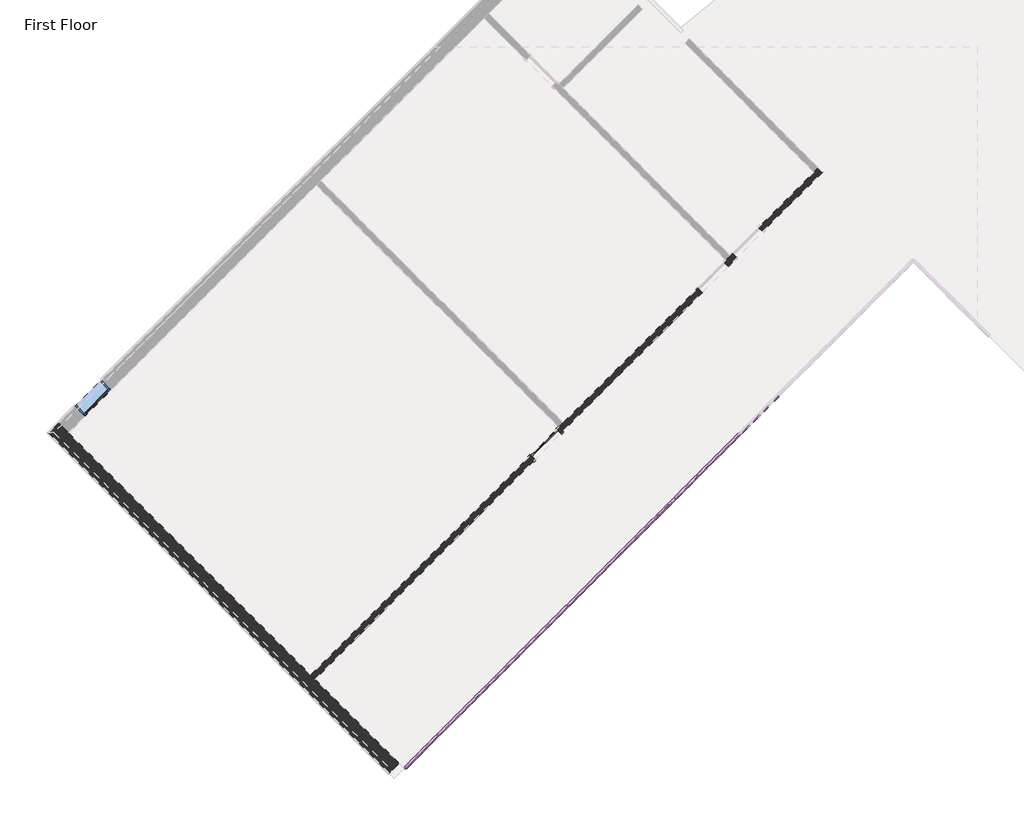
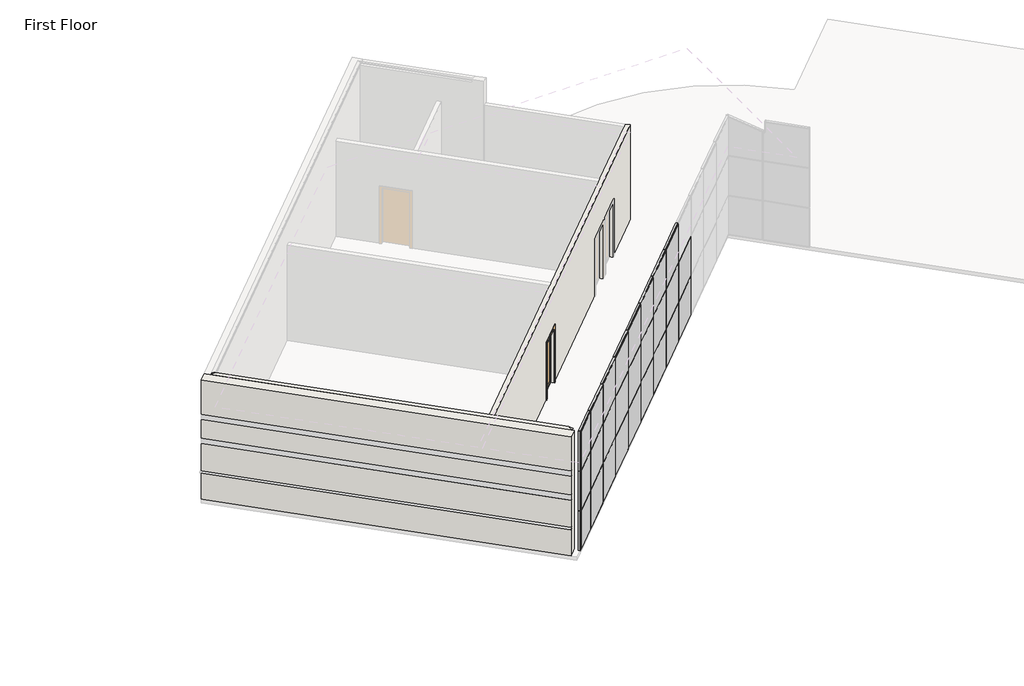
# One storey, part 1 of 5: 56 members, 26 plates, 2 walls, 1 door, 1 window.
"""IFC4 building model written with IfcOpenShell, lengths in millimetres."""

from ifc_helpers import new_model, si_unit, origin, place, context, project, spatial, faceted_brep, transform, mapped, element, save
from components import door_b81abb0e, member_bd80eb51, member_155beb68, member_42be4715, member_a3731390, member_6121af53, member_b87a50da, system_panel_glazed_da345f4e, system_panel_glazed_f1e4c5b0, system_panel_glazed_b4114ee2, system_panel_glazed_dc791129, system_panel_solid_2f1037e2, system_panel_solid_6e0f4c8d, window_15c49d37

model = new_model("IFC4")

# Units and contexts
model_context = context("Model", 3, world=origin())
ifc_project = project(units=[si_unit("LENGTHUNIT", "METRE", prefix="MILLI")], contexts=[model_context])

# Site, building, storey
site = spatial("IfcSite", under=ifc_project)
building = spatial("IfcBuilding", under=site)
storey = spatial("IfcBuildingStorey", under=building, Name="First Floor", Elevation=0.0)

# Door
placement = place(None, origin())
door_shape = door_b81abb0e(model_context)
element("IfcDoor", 1, ObjectType="Single-Glass 1 : 36\" x 84\"", at=placement, inside=storey, context=model_context, shape_type="MappedRepresentation", body=[
    mapped(door_shape, transform((-12602.8718391, -2278.0890678, 0.0), x_axis=(0.707106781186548, 0.707106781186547, 0.0), y_axis=(-0.707106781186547, 0.707106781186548, 0.0), z_axis=(0.0, 0.0, 1.0))),
])

# Members
member_shape = member_bd80eb51(model_context)
element("IfcMember", 2, ObjectType="Rectangular Mullion : 1.5\" x 2.5\" Rectangular", at=placement, inside=storey, context=model_context, shape_type="MappedRepresentation", body=[
    mapped(member_shape, transform((-16098.4365342, -10333.3788084, 4572.0), x_axis=(0.0, 0.0, 1.0), y_axis=(-0.7071067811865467, 0.7071067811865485, 0.0), z_axis=(-0.7071067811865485, -0.7071067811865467, 0.0))),
])
member_2_shape = member_155beb68(model_context)
element("IfcMember", 3, ObjectType="Rectangular Mullion : 1.5\" x 2.5\" Rectangular", at=placement, inside=storey, context=model_context, shape_type="MappedRepresentation", body=[
    mapped(member_2_shape, transform((-8831.1642682, -3066.1065424, 0.0), x_axis=(-0.7071067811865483, -0.7071067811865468, 0.0), y_axis=(-0.7071067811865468, 0.7071067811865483, 0.0), z_axis=(0.0, 0.0, -1.0))),
])
element("IfcMember", 4, ObjectType="Rectangular Mullion : 1.5\" x 2.5\" Rectangular", at=placement, inside=storey, context=model_context, shape_type="MappedRepresentation", body=[
    mapped(member_2_shape, transform((-9908.7950028, -4143.7372769, 0.0), x_axis=(-0.7071067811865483, -0.7071067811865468, 0.0), y_axis=(-0.7071067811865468, 0.7071067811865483, 0.0), z_axis=(0.0, 0.0, -1.0))),
])
element("IfcMember", 5, ObjectType="Rectangular Mullion : 1.5\" x 2.5\" Rectangular", at=placement, inside=storey, context=model_context, shape_type="MappedRepresentation", body=[
    mapped(member_2_shape, transform((-10986.4257373, -5221.3680114, 0.0), x_axis=(-0.7071067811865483, -0.7071067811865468, 0.0), y_axis=(-0.7071067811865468, 0.7071067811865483, 0.0), z_axis=(0.0, 0.0, -1.0))),
])
element("IfcMember", 6, ObjectType="Rectangular Mullion : 1.5\" x 2.5\" Rectangular", at=placement, inside=storey, context=model_context, shape_type="MappedRepresentation", body=[
    mapped(member_2_shape, transform((-12064.0564718, -6298.998746, 0.0), x_axis=(-0.7071067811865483, -0.7071067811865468, 0.0), y_axis=(-0.7071067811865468, 0.7071067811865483, 0.0), z_axis=(0.0, 0.0, -1.0))),
])
element("IfcMember", 7, ObjectType="Rectangular Mullion : 1.5\" x 2.5\" Rectangular", at=placement, inside=storey, context=model_context, shape_type="MappedRepresentation", body=[
    mapped(member_2_shape, transform((-13141.6872064, -7376.6294805, 0.0), x_axis=(-0.7071067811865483, -0.7071067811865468, 0.0), y_axis=(-0.7071067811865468, 0.7071067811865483, 0.0), z_axis=(0.0, 0.0, -1.0))),
])
element("IfcMember", 8, ObjectType="Rectangular Mullion : 1.5\" x 2.5\" Rectangular", at=placement, inside=storey, context=model_context, shape_type="MappedRepresentation", body=[
    mapped(member_2_shape, transform((-14219.3179409, -8454.260215, 0.0), x_axis=(-0.7071067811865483, -0.7071067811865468, 0.0), y_axis=(-0.7071067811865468, 0.7071067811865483, 0.0), z_axis=(0.0, 0.0, -1.0))),
])
element("IfcMember", 9, ObjectType="Rectangular Mullion : 1.5\" x 2.5\" Rectangular", at=placement, inside=storey, context=model_context, shape_type="MappedRepresentation", body=[
    mapped(member_2_shape, transform((-15296.9486754, -9531.8909496, 0.0), x_axis=(-0.7071067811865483, -0.7071067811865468, 0.0), y_axis=(-0.7071067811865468, 0.7071067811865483, 0.0), z_axis=(0.0, 0.0, -1.0))),
])
member_3_shape = member_42be4715(model_context)
element("IfcMember", 10, ObjectType="Rectangular Mullion : 1.5\" x 2.5\" Rectangular", at=placement, inside=storey, context=model_context, shape_type="MappedRepresentation", body=[
    mapped(member_3_shape, transform((-8817.6938841, -3052.6361582, 1524.0), x_axis=(0.0, 0.0, 1.0), y_axis=(-0.7071067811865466, 0.7071067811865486, 0.0), z_axis=(-0.7071067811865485, -0.7071067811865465, 0.0))),
])
element("IfcMember", 11, ObjectType="Rectangular Mullion : 1.5\" x 2.5\" Rectangular", at=placement, inside=storey, context=model_context, shape_type="MappedRepresentation", body=[
    mapped(member_3_shape, transform((-9895.3246186, -4130.2668927, 1524.0), x_axis=(0.0, 0.0, 1.0), y_axis=(-0.7071067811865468, 0.7071067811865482, 0.0), z_axis=(-0.7071067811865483, -0.7071067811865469, 0.0))),
])
element("IfcMember", 12, ObjectType="Rectangular Mullion : 1.5\" x 2.5\" Rectangular", at=placement, inside=storey, context=model_context, shape_type="MappedRepresentation", body=[
    mapped(member_3_shape, transform((-10972.9553531, -5207.8976273, 1524.0), x_axis=(0.0, 0.0, 1.0), y_axis=(-0.7071067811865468, 0.7071067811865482, 0.0), z_axis=(-0.7071067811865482, -0.7071067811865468, 0.0))),
])
element("IfcMember", 13, ObjectType="Rectangular Mullion : 1.5\" x 2.5\" Rectangular", at=placement, inside=storey, context=model_context, shape_type="MappedRepresentation", body=[
    mapped(member_3_shape, transform((-12050.5860877, -6285.5283618, 1524.0), x_axis=(0.0, 0.0, 1.0), y_axis=(-0.7071067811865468, 0.7071067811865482, 0.0), z_axis=(-0.7071067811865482, -0.7071067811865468, 0.0))),
])
element("IfcMember", 14, ObjectType="Rectangular Mullion : 1.5\" x 2.5\" Rectangular", at=placement, inside=storey, context=model_context, shape_type="MappedRepresentation", body=[
    mapped(member_3_shape, transform((-13128.2168222, -7363.1590963, 1524.0), x_axis=(0.0, 0.0, 1.0), y_axis=(-0.7071067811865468, 0.7071067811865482, 0.0), z_axis=(-0.7071067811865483, -0.7071067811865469, 0.0))),
])
element("IfcMember", 15, ObjectType="Rectangular Mullion : 1.5\" x 2.5\" Rectangular", at=placement, inside=storey, context=model_context, shape_type="MappedRepresentation", body=[
    mapped(member_3_shape, transform((-14205.8475567, -8440.7898309, 1524.0), x_axis=(0.0, 0.0, 1.0), y_axis=(-0.7071067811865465, 0.7071067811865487, 0.0), z_axis=(-0.7071067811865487, -0.7071067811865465, 0.0))),
])
element("IfcMember", 16, ObjectType="Rectangular Mullion : 1.5\" x 2.5\" Rectangular", at=placement, inside=storey, context=model_context, shape_type="MappedRepresentation", body=[
    mapped(member_3_shape, transform((-15283.4782912, -9518.4205654, 1524.0), x_axis=(0.0, 0.0, 1.0), y_axis=(-0.7071067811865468, 0.7071067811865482, 0.0), z_axis=(-0.7071067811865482, -0.7071067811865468, 0.0))),
])
element("IfcMember", 17, ObjectType="Rectangular Mullion : 1.5\" x 2.5\" Rectangular", at=placement, inside=storey, context=model_context, shape_type="MappedRepresentation", body=[
    mapped(member_3_shape, transform((-8817.6938841, -3052.6361582, 3048.0), x_axis=(0.0, 0.0, 1.0), y_axis=(-0.7071067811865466, 0.7071067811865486, 0.0), z_axis=(-0.7071067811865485, -0.7071067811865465, 0.0))),
])
element("IfcMember", 18, ObjectType="Rectangular Mullion : 1.5\" x 2.5\" Rectangular", at=placement, inside=storey, context=model_context, shape_type="MappedRepresentation", body=[
    mapped(member_3_shape, transform((-9895.3246186, -4130.2668927, 3048.0), x_axis=(0.0, 0.0, 1.0), y_axis=(-0.7071067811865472, 0.7071067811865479, 0.0), z_axis=(-0.7071067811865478, -0.7071067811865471, 0.0))),
])
element("IfcMember", 19, ObjectType="Rectangular Mullion : 1.5\" x 2.5\" Rectangular", at=placement, inside=storey, context=model_context, shape_type="MappedRepresentation", body=[
    mapped(member_3_shape, transform((-10972.9553531, -5207.8976273, 3048.0), x_axis=(0.0, 0.0, 1.0), y_axis=(-0.7071067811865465, 0.7071067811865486, 0.0), z_axis=(-0.7071067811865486, -0.7071067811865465, 0.0))),
])
element("IfcMember", 20, ObjectType="Rectangular Mullion : 1.5\" x 2.5\" Rectangular", at=placement, inside=storey, context=model_context, shape_type="MappedRepresentation", body=[
    mapped(member_3_shape, transform((-12050.5860877, -6285.5283618, 3048.0), x_axis=(0.0, 0.0, 1.0), y_axis=(-0.7071067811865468, 0.7071067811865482, 0.0), z_axis=(-0.7071067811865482, -0.7071067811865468, 0.0))),
])
element("IfcMember", 21, ObjectType="Rectangular Mullion : 1.5\" x 2.5\" Rectangular", at=placement, inside=storey, context=model_context, shape_type="MappedRepresentation", body=[
    mapped(member_3_shape, transform((-13128.2168222, -7363.1590963, 3048.0), x_axis=(0.0, 0.0, 1.0), y_axis=(-0.7071067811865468, 0.7071067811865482, 0.0), z_axis=(-0.7071067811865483, -0.7071067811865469, 0.0))),
])
element("IfcMember", 22, ObjectType="Rectangular Mullion : 1.5\" x 2.5\" Rectangular", at=placement, inside=storey, context=model_context, shape_type="MappedRepresentation", body=[
    mapped(member_3_shape, transform((-14205.8475567, -8440.7898309, 3048.0), x_axis=(0.0, 0.0, 1.0), y_axis=(-0.7071067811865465, 0.7071067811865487, 0.0), z_axis=(-0.7071067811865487, -0.7071067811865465, 0.0))),
])
element("IfcMember", 23, ObjectType="Rectangular Mullion : 1.5\" x 2.5\" Rectangular", at=placement, inside=storey, context=model_context, shape_type="MappedRepresentation", body=[
    mapped(member_3_shape, transform((-15283.4782912, -9518.4205654, 3048.0), x_axis=(0.0, 0.0, 1.0), y_axis=(-0.7071067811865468, 0.7071067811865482, 0.0), z_axis=(-0.7071067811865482, -0.7071067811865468, 0.0))),
])
member_4_shape = member_a3731390(model_context)
element("IfcMember", 24, ObjectType="Rectangular Mullion : 1.5\" x 2.5\" Rectangular", at=placement, inside=storey, context=model_context, shape_type="MappedRepresentation", body=[
    mapped(member_4_shape, transform((-16098.4365342, -10333.3788084, 1524.0), x_axis=(0.0, 0.0, 1.0), y_axis=(-0.7071067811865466, 0.7071067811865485, 0.0), z_axis=(-0.7071067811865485, -0.7071067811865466, 0.0))),
])
element("IfcMember", 25, ObjectType="Rectangular Mullion : 1.5\" x 2.5\" Rectangular", at=placement, inside=storey, context=model_context, shape_type="MappedRepresentation", body=[
    mapped(member_4_shape, transform((-16098.4365342, -10333.3788084, 3048.0), x_axis=(0.0, 0.0, 1.0), y_axis=(-0.7071067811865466, 0.7071067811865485, 0.0), z_axis=(-0.7071067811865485, -0.7071067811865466, 0.0))),
])
member_5_shape = member_6121af53(model_context)
element("IfcMember", 26, ObjectType="Rectangular Mullion : 1.5\" x 2.5\" Rectangular", at=placement, inside=storey, context=model_context, shape_type="MappedRepresentation", body=[
    mapped(member_5_shape, transform((-7767.0039179, -2001.946192, 0.0), x_axis=(0.0, 0.0, -1.0), y_axis=(-0.7071067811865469, 0.7071067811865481, 0.0), z_axis=(0.7071067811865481, 0.7071067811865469, 0.0))),
])
element("IfcMember", 27, ObjectType="Rectangular Mullion : 1.5\" x 2.5\" Rectangular", at=placement, inside=storey, context=model_context, shape_type="MappedRepresentation", body=[
    mapped(member_5_shape, transform((-8844.6346524, -3079.5769266, 0.0), x_axis=(0.0, 0.0, -1.0), y_axis=(-0.7071067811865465, 0.7071067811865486, 0.0), z_axis=(0.7071067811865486, 0.7071067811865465, 0.0))),
])
element("IfcMember", 28, ObjectType="Rectangular Mullion : 1.5\" x 2.5\" Rectangular", at=placement, inside=storey, context=model_context, shape_type="MappedRepresentation", body=[
    mapped(member_5_shape, transform((-9922.265387, -4157.2076611, 0.0), x_axis=(0.0, 0.0, -1.0), y_axis=(-0.7071067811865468, 0.7071067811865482, 0.0), z_axis=(0.7071067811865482, 0.7071067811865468, 0.0))),
])
element("IfcMember", 29, ObjectType="Rectangular Mullion : 1.5\" x 2.5\" Rectangular", at=placement, inside=storey, context=model_context, shape_type="MappedRepresentation", body=[
    mapped(member_5_shape, transform((-10999.8961215, -5234.8383956, 0.0), x_axis=(0.0, 0.0, -1.0), y_axis=(-0.7071067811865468, 0.7071067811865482, 0.0), z_axis=(0.7071067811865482, 0.7071067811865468, 0.0))),
])
element("IfcMember", 30, ObjectType="Rectangular Mullion : 1.5\" x 2.5\" Rectangular", at=placement, inside=storey, context=model_context, shape_type="MappedRepresentation", body=[
    mapped(member_5_shape, transform((-12077.526856, -6312.4691302, 0.0), x_axis=(0.0, 0.0, -1.0), y_axis=(-0.7071067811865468, 0.7071067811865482, 0.0), z_axis=(0.7071067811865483, 0.7071067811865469, 0.0))),
])
element("IfcMember", 31, ObjectType="Rectangular Mullion : 1.5\" x 2.5\" Rectangular", at=placement, inside=storey, context=model_context, shape_type="MappedRepresentation", body=[
    mapped(member_5_shape, transform((-13155.1575905, -7390.0998647, 0.0), x_axis=(0.0, 0.0, -1.0), y_axis=(-0.7071067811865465, 0.7071067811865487, 0.0), z_axis=(0.7071067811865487, 0.7071067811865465, 0.0))),
])
element("IfcMember", 32, ObjectType="Rectangular Mullion : 1.5\" x 2.5\" Rectangular", at=placement, inside=storey, context=model_context, shape_type="MappedRepresentation", body=[
    mapped(member_5_shape, transform((-14232.7883251, -8467.7305992, 0.0), x_axis=(0.0, 0.0, -1.0), y_axis=(-0.7071067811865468, 0.7071067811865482, 0.0), z_axis=(0.7071067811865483, 0.7071067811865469, 0.0))),
])
element("IfcMember", 33, ObjectType="Rectangular Mullion : 1.5\" x 2.5\" Rectangular", at=placement, inside=storey, context=model_context, shape_type="MappedRepresentation", body=[
    mapped(member_shape, transform((-15310.4190596, -9545.3613337, 0.0), x_axis=(0.0, 0.0, -1.0), y_axis=(-0.7071067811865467, 0.7071067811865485, 0.0), z_axis=(0.7071067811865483, 0.7071067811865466, 0.0))),
])
element("IfcMember", 34, ObjectType="Rectangular Mullion : 1.5\" x 2.5\" Rectangular", at=placement, inside=storey, context=model_context, shape_type="MappedRepresentation", body=[
    mapped(member_5_shape, transform((-8817.6938841, -3052.6361582, 4572.0), x_axis=(0.0, 0.0, 1.0), y_axis=(-0.7071067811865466, 0.7071067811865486, 0.0), z_axis=(-0.7071067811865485, -0.7071067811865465, 0.0))),
])
element("IfcMember", 35, ObjectType="Rectangular Mullion : 1.5\" x 2.5\" Rectangular", at=placement, inside=storey, context=model_context, shape_type="MappedRepresentation", body=[
    mapped(member_5_shape, transform((-9895.3246186, -4130.2668927, 4572.0), x_axis=(0.0, 0.0, 1.0), y_axis=(-0.7071067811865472, 0.7071067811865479, 0.0), z_axis=(-0.7071067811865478, -0.7071067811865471, 0.0))),
])
element("IfcMember", 36, ObjectType="Rectangular Mullion : 1.5\" x 2.5\" Rectangular", at=placement, inside=storey, context=model_context, shape_type="MappedRepresentation", body=[
    mapped(member_5_shape, transform((-10972.9553531, -5207.8976273, 4572.0), x_axis=(0.0, 0.0, 1.0), y_axis=(-0.7071067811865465, 0.7071067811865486, 0.0), z_axis=(-0.7071067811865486, -0.7071067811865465, 0.0))),
])
element("IfcMember", 37, ObjectType="Rectangular Mullion : 1.5\" x 2.5\" Rectangular", at=placement, inside=storey, context=model_context, shape_type="MappedRepresentation", body=[
    mapped(member_5_shape, transform((-12050.5860877, -6285.5283618, 4572.0), x_axis=(0.0, 0.0, 1.0), y_axis=(-0.7071067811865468, 0.7071067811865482, 0.0), z_axis=(-0.7071067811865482, -0.7071067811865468, 0.0))),
])
element("IfcMember", 38, ObjectType="Rectangular Mullion : 1.5\" x 2.5\" Rectangular", at=placement, inside=storey, context=model_context, shape_type="MappedRepresentation", body=[
    mapped(member_5_shape, transform((-13128.2168222, -7363.1590963, 4572.0), x_axis=(0.0, 0.0, 1.0), y_axis=(-0.7071067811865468, 0.7071067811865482, 0.0), z_axis=(-0.7071067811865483, -0.7071067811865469, 0.0))),
])
element("IfcMember", 39, ObjectType="Rectangular Mullion : 1.5\" x 2.5\" Rectangular", at=placement, inside=storey, context=model_context, shape_type="MappedRepresentation", body=[
    mapped(member_5_shape, transform((-14205.8475567, -8440.7898309, 4572.0), x_axis=(0.0, 0.0, 1.0), y_axis=(-0.7071067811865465, 0.7071067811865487, 0.0), z_axis=(-0.7071067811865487, -0.7071067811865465, 0.0))),
])
element("IfcMember", 40, ObjectType="Rectangular Mullion : 1.5\" x 2.5\" Rectangular", at=placement, inside=storey, context=model_context, shape_type="MappedRepresentation", body=[
    mapped(member_5_shape, transform((-15283.4782912, -9518.4205654, 4572.0), x_axis=(0.0, 0.0, 1.0), y_axis=(-0.7071067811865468, 0.7071067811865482, 0.0), z_axis=(-0.7071067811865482, -0.7071067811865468, 0.0))),
])
element("IfcMember", 41, ObjectType="Rectangular Mullion : 1.5\" x 2.5\" Rectangular", at=placement, inside=storey, context=model_context, shape_type="MappedRepresentation", body=[
    mapped(member_2_shape, transform((-8831.1642682, -3066.1065424, 1524.0), x_axis=(-0.7071067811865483, -0.7071067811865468, 0.0), y_axis=(-0.7071067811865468, 0.7071067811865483, 0.0), z_axis=(0.0, 0.0, -1.0))),
])
element("IfcMember", 42, ObjectType="Rectangular Mullion : 1.5\" x 2.5\" Rectangular", at=placement, inside=storey, context=model_context, shape_type="MappedRepresentation", body=[
    mapped(member_2_shape, transform((-9908.7950028, -4143.7372769, 1524.0), x_axis=(-0.7071067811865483, -0.7071067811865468, 0.0), y_axis=(-0.7071067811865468, 0.7071067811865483, 0.0), z_axis=(0.0, 0.0, -1.0))),
])
element("IfcMember", 43, ObjectType="Rectangular Mullion : 1.5\" x 2.5\" Rectangular", at=placement, inside=storey, context=model_context, shape_type="MappedRepresentation", body=[
    mapped(member_2_shape, transform((-10986.4257373, -5221.3680114, 1524.0), x_axis=(-0.7071067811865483, -0.7071067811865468, 0.0), y_axis=(-0.7071067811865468, 0.7071067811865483, 0.0), z_axis=(0.0, 0.0, -1.0))),
])
element("IfcMember", 44, ObjectType="Rectangular Mullion : 1.5\" x 2.5\" Rectangular", at=placement, inside=storey, context=model_context, shape_type="MappedRepresentation", body=[
    mapped(member_2_shape, transform((-12064.0564718, -6298.998746, 1524.0), x_axis=(-0.7071067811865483, -0.7071067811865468, 0.0), y_axis=(-0.7071067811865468, 0.7071067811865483, 0.0), z_axis=(0.0, 0.0, -1.0))),
])
element("IfcMember", 45, ObjectType="Rectangular Mullion : 1.5\" x 2.5\" Rectangular", at=placement, inside=storey, context=model_context, shape_type="MappedRepresentation", body=[
    mapped(member_2_shape, transform((-13141.6872064, -7376.6294805, 1524.0), x_axis=(-0.7071067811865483, -0.7071067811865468, 0.0), y_axis=(-0.7071067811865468, 0.7071067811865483, 0.0), z_axis=(0.0, 0.0, -1.0))),
])
element("IfcMember", 46, ObjectType="Rectangular Mullion : 1.5\" x 2.5\" Rectangular", at=placement, inside=storey, context=model_context, shape_type="MappedRepresentation", body=[
    mapped(member_2_shape, transform((-14219.3179409, -8454.260215, 1524.0), x_axis=(-0.7071067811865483, -0.7071067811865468, 0.0), y_axis=(-0.7071067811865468, 0.7071067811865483, 0.0), z_axis=(0.0, 0.0, -1.0))),
])
element("IfcMember", 47, ObjectType="Rectangular Mullion : 1.5\" x 2.5\" Rectangular", at=placement, inside=storey, context=model_context, shape_type="MappedRepresentation", body=[
    mapped(member_2_shape, transform((-15296.9486754, -9531.8909496, 1524.0), x_axis=(-0.7071067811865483, -0.7071067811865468, 0.0), y_axis=(-0.7071067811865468, 0.7071067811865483, 0.0), z_axis=(0.0, 0.0, -1.0))),
])
element("IfcMember", 48, ObjectType="Rectangular Mullion : 1.5\" x 2.5\" Rectangular", at=placement, inside=storey, context=model_context, shape_type="MappedRepresentation", body=[
    mapped(member_2_shape, transform((-8831.1642682, -3066.1065424, 3048.0), x_axis=(-0.7071067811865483, -0.7071067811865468, 0.0), y_axis=(-0.7071067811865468, 0.7071067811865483, 0.0), z_axis=(0.0, 0.0, -1.0))),
])
element("IfcMember", 49, ObjectType="Rectangular Mullion : 1.5\" x 2.5\" Rectangular", at=placement, inside=storey, context=model_context, shape_type="MappedRepresentation", body=[
    mapped(member_2_shape, transform((-9908.7950028, -4143.7372769, 3048.0), x_axis=(-0.7071067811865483, -0.7071067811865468, 0.0), y_axis=(-0.7071067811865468, 0.7071067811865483, 0.0), z_axis=(0.0, 0.0, -1.0))),
])
element("IfcMember", 50, ObjectType="Rectangular Mullion : 1.5\" x 2.5\" Rectangular", at=placement, inside=storey, context=model_context, shape_type="MappedRepresentation", body=[
    mapped(member_2_shape, transform((-10986.4257373, -5221.3680114, 3048.0), x_axis=(-0.7071067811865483, -0.7071067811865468, 0.0), y_axis=(-0.7071067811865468, 0.7071067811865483, 0.0), z_axis=(0.0, 0.0, -1.0))),
])
element("IfcMember", 51, ObjectType="Rectangular Mullion : 1.5\" x 2.5\" Rectangular", at=placement, inside=storey, context=model_context, shape_type="MappedRepresentation", body=[
    mapped(member_2_shape, transform((-12064.0564718, -6298.998746, 3048.0), x_axis=(-0.7071067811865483, -0.7071067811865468, 0.0), y_axis=(-0.7071067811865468, 0.7071067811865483, 0.0), z_axis=(0.0, 0.0, -1.0))),
])
element("IfcMember", 52, ObjectType="Rectangular Mullion : 1.5\" x 2.5\" Rectangular", at=placement, inside=storey, context=model_context, shape_type="MappedRepresentation", body=[
    mapped(member_2_shape, transform((-13141.6872064, -7376.6294805, 3048.0), x_axis=(-0.7071067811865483, -0.7071067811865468, 0.0), y_axis=(-0.7071067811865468, 0.7071067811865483, 0.0), z_axis=(0.0, 0.0, -1.0))),
])
element("IfcMember", 53, ObjectType="Rectangular Mullion : 1.5\" x 2.5\" Rectangular", at=placement, inside=storey, context=model_context, shape_type="MappedRepresentation", body=[
    mapped(member_2_shape, transform((-14219.3179409, -8454.260215, 3048.0), x_axis=(-0.7071067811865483, -0.7071067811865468, 0.0), y_axis=(-0.7071067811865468, 0.7071067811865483, 0.0), z_axis=(0.0, 0.0, -1.0))),
])
element("IfcMember", 54, ObjectType="Rectangular Mullion : 1.5\" x 2.5\" Rectangular", at=placement, inside=storey, context=model_context, shape_type="MappedRepresentation", body=[
    mapped(member_2_shape, transform((-15296.9486754, -9531.8909496, 3048.0), x_axis=(-0.7071067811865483, -0.7071067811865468, 0.0), y_axis=(-0.7071067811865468, 0.7071067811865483, 0.0), z_axis=(0.0, 0.0, -1.0))),
])
member_6_shape = member_b87a50da(model_context)
element("IfcMember", 55, ObjectType="Rectangular Mullion : 1.5\" x 2.5\" Rectangular", at=placement, inside=storey, context=model_context, shape_type="MappedRepresentation", body=[
    mapped(member_6_shape, transform((-16125.3773026, -10360.3195767, 0.0), x_axis=(-0.7071067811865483, -0.7071067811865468, 0.0), y_axis=(-0.7071067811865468, 0.7071067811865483, 0.0), z_axis=(0.0, 0.0, -1.0))),
])
element("IfcMember", 56, ObjectType="Rectangular Mullion : 1.5\" x 2.5\" Rectangular", at=placement, inside=storey, context=model_context, shape_type="MappedRepresentation", body=[
    mapped(member_6_shape, transform((-16125.3773026, -10360.3195767, 1524.0), x_axis=(-0.7071067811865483, -0.7071067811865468, 0.0), y_axis=(-0.7071067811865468, 0.7071067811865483, 0.0), z_axis=(0.0, 0.0, -1.0))),
])
element("IfcMember", 57, ObjectType="Rectangular Mullion : 1.5\" x 2.5\" Rectangular", at=placement, inside=storey, context=model_context, shape_type="MappedRepresentation", body=[
    mapped(member_6_shape, transform((-16125.3773026, -10360.3195767, 3048.0), x_axis=(-0.7071067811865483, -0.7071067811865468, 0.0), y_axis=(-0.7071067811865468, 0.7071067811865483, 0.0), z_axis=(0.0, 0.0, -1.0))),
])

# Plates
system_panel_glazed_shape = system_panel_glazed_da345f4e(model_context)
element("IfcPlate", 58, ObjectType="System Panel : Glazed", at=placement, inside=storey, context=model_context, shape_type="MappedRepresentation", body=[
    mapped(system_panel_glazed_shape, transform((-7214.7181665, -1449.6604406, 38.1), x_axis=(-0.7071067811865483, -0.7071067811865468, 0.0), y_axis=(0.7071067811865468, -0.7071067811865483, 0.0), z_axis=(0.0, 0.0, 1.0))),
])
element("IfcPlate", 59, ObjectType="System Panel : Glazed", at=placement, inside=storey, context=model_context, shape_type="MappedRepresentation", body=[
    mapped(system_panel_glazed_shape, transform((-8292.348901, -2527.2911751, 38.1), x_axis=(-0.7071067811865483, -0.7071067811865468, 0.0), y_axis=(0.7071067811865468, -0.7071067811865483, 0.0), z_axis=(0.0, 0.0, 1.0))),
])
element("IfcPlate", 60, ObjectType="System Panel : Glazed", at=placement, inside=storey, context=model_context, shape_type="MappedRepresentation", body=[
    mapped(system_panel_glazed_shape, transform((-9369.9796355, -3604.9219097, 38.1), x_axis=(-0.7071067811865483, -0.7071067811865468, 0.0), y_axis=(0.7071067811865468, -0.7071067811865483, 0.0), z_axis=(0.0, 0.0, 1.0))),
])
element("IfcPlate", 61, ObjectType="System Panel : Glazed", at=placement, inside=storey, context=model_context, shape_type="MappedRepresentation", body=[
    mapped(system_panel_glazed_shape, transform((-10447.61037, -4682.5526442, 38.1), x_axis=(-0.7071067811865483, -0.7071067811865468, 0.0), y_axis=(0.7071067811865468, -0.7071067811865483, 0.0), z_axis=(0.0, 0.0, 1.0))),
])
element("IfcPlate", 62, ObjectType="System Panel : Glazed", at=placement, inside=storey, context=model_context, shape_type="MappedRepresentation", body=[
    mapped(system_panel_glazed_shape, transform((-11525.2411046, -5760.1833787, 38.1), x_axis=(-0.7071067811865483, -0.7071067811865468, 0.0), y_axis=(0.7071067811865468, -0.7071067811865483, 0.0), z_axis=(0.0, 0.0, 1.0))),
])
element("IfcPlate", 63, ObjectType="System Panel : Glazed", at=placement, inside=storey, context=model_context, shape_type="MappedRepresentation", body=[
    mapped(system_panel_glazed_shape, transform((-12602.8718391, -6837.8141132, 38.1), x_axis=(-0.7071067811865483, -0.7071067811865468, 0.0), y_axis=(0.7071067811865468, -0.7071067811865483, 0.0), z_axis=(0.0, 0.0, 1.0))),
])
element("IfcPlate", 64, ObjectType="System Panel : Glazed", at=placement, inside=storey, context=model_context, shape_type="MappedRepresentation", body=[
    mapped(system_panel_glazed_shape, transform((-13680.5025736, -7915.4448478, 38.1), x_axis=(-0.7071067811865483, -0.7071067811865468, 0.0), y_axis=(0.7071067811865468, -0.7071067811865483, 0.0), z_axis=(0.0, 0.0, 1.0))),
])
element("IfcPlate", 65, ObjectType="System Panel : Glazed", at=placement, inside=storey, context=model_context, shape_type="MappedRepresentation", body=[
    mapped(system_panel_glazed_shape, transform((-14758.1333082, -8993.0755823, 38.1), x_axis=(-0.7071067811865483, -0.7071067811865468, 0.0), y_axis=(0.7071067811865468, -0.7071067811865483, 0.0), z_axis=(0.0, 0.0, 1.0))),
])
system_panel_glazed_2_shape = system_panel_glazed_f1e4c5b0(model_context)
element("IfcPlate", 66, ObjectType="System Panel : Glazed", at=placement, inside=storey, context=model_context, shape_type="MappedRepresentation", body=[
    mapped(system_panel_glazed_2_shape, transform((-7214.7181665, -1449.6604406, 1543.05), x_axis=(-0.7071067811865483, -0.7071067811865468, 0.0), y_axis=(0.7071067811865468, -0.7071067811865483, 0.0), z_axis=(0.0, 0.0, 1.0))),
])
element("IfcPlate", 67, ObjectType="System Panel : Glazed", at=placement, inside=storey, context=model_context, shape_type="MappedRepresentation", body=[
    mapped(system_panel_glazed_2_shape, transform((-8292.348901, -2527.2911751, 1543.05), x_axis=(-0.7071067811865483, -0.7071067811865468, 0.0), y_axis=(0.7071067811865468, -0.7071067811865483, 0.0), z_axis=(0.0, 0.0, 1.0))),
])
element("IfcPlate", 68, ObjectType="System Panel : Glazed", at=placement, inside=storey, context=model_context, shape_type="MappedRepresentation", body=[
    mapped(system_panel_glazed_2_shape, transform((-9369.9796355, -3604.9219097, 1543.05), x_axis=(-0.7071067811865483, -0.7071067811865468, 0.0), y_axis=(0.7071067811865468, -0.7071067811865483, 0.0), z_axis=(0.0, 0.0, 1.0))),
])
element("IfcPlate", 69, ObjectType="System Panel : Glazed", at=placement, inside=storey, context=model_context, shape_type="MappedRepresentation", body=[
    mapped(system_panel_glazed_2_shape, transform((-10447.61037, -4682.5526442, 1543.05), x_axis=(-0.7071067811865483, -0.7071067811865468, 0.0), y_axis=(0.7071067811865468, -0.7071067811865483, 0.0), z_axis=(0.0, 0.0, 1.0))),
])
element("IfcPlate", 70, ObjectType="System Panel : Glazed", at=placement, inside=storey, context=model_context, shape_type="MappedRepresentation", body=[
    mapped(system_panel_glazed_2_shape, transform((-11525.2411046, -5760.1833787, 1543.05), x_axis=(-0.7071067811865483, -0.7071067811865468, 0.0), y_axis=(0.7071067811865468, -0.7071067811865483, 0.0), z_axis=(0.0, 0.0, 1.0))),
])
element("IfcPlate", 71, ObjectType="System Panel : Glazed", at=placement, inside=storey, context=model_context, shape_type="MappedRepresentation", body=[
    mapped(system_panel_glazed_2_shape, transform((-12602.8718391, -6837.8141132, 1543.05), x_axis=(-0.7071067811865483, -0.7071067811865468, 0.0), y_axis=(0.7071067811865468, -0.7071067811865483, 0.0), z_axis=(0.0, 0.0, 1.0))),
])
element("IfcPlate", 72, ObjectType="System Panel : Glazed", at=placement, inside=storey, context=model_context, shape_type="MappedRepresentation", body=[
    mapped(system_panel_glazed_2_shape, transform((-13680.5025736, -7915.4448478, 1543.05), x_axis=(-0.7071067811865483, -0.7071067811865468, 0.0), y_axis=(0.7071067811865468, -0.7071067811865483, 0.0), z_axis=(0.0, 0.0, 1.0))),
])
element("IfcPlate", 73, ObjectType="System Panel : Glazed", at=placement, inside=storey, context=model_context, shape_type="MappedRepresentation", body=[
    mapped(system_panel_glazed_2_shape, transform((-14758.1333082, -8993.0755823, 1543.05), x_axis=(-0.7071067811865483, -0.7071067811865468, 0.0), y_axis=(0.7071067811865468, -0.7071067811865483, 0.0), z_axis=(0.0, 0.0, 1.0))),
])
system_panel_glazed_3_shape = system_panel_glazed_b4114ee2(model_context)
element("IfcPlate", 74, ObjectType="System Panel : Glazed", at=placement, inside=storey, context=model_context, shape_type="MappedRepresentation", body=[
    mapped(system_panel_glazed_3_shape, transform((-15704.4277969, -9939.3700711, 38.1), x_axis=(-0.7071067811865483, -0.7071067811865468, 0.0), y_axis=(0.7071067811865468, -0.7071067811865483, 0.0), z_axis=(0.0, 0.0, 1.0))),
])
system_panel_glazed_4_shape = system_panel_glazed_dc791129(model_context)
element("IfcPlate", 75, ObjectType="System Panel : Glazed", at=placement, inside=storey, context=model_context, shape_type="MappedRepresentation", body=[
    mapped(system_panel_glazed_4_shape, transform((-15704.4277969, -9939.3700711, 1543.05), x_axis=(-0.7071067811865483, -0.7071067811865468, 0.0), y_axis=(0.7071067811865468, -0.7071067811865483, 0.0), z_axis=(0.0, 0.0, 1.0))),
])
system_panel_solid_shape = system_panel_solid_2f1037e2(model_context)
element("IfcPlate", 76, ObjectType="System Panel : Solid", at=placement, inside=storey, context=model_context, shape_type="MappedRepresentation", body=[
    mapped(system_panel_solid_shape, transform((-8292.348901, -2527.2911751, 3067.05), x_axis=(-0.7071067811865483, -0.7071067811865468, 0.0), y_axis=(0.7071067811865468, -0.7071067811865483, 0.0), z_axis=(0.0, 0.0, 1.0))),
])
element("IfcPlate", 77, ObjectType="System Panel : Solid", at=placement, inside=storey, context=model_context, shape_type="MappedRepresentation", body=[
    mapped(system_panel_solid_shape, transform((-9369.9796355, -3604.9219097, 3067.05), x_axis=(-0.7071067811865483, -0.7071067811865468, 0.0), y_axis=(0.7071067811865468, -0.7071067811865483, 0.0), z_axis=(0.0, 0.0, 1.0))),
])
element("IfcPlate", 78, ObjectType="System Panel : Solid", at=placement, inside=storey, context=model_context, shape_type="MappedRepresentation", body=[
    mapped(system_panel_solid_shape, transform((-10447.61037, -4682.5526442, 3067.05), x_axis=(-0.7071067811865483, -0.7071067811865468, 0.0), y_axis=(0.7071067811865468, -0.7071067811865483, 0.0), z_axis=(0.0, 0.0, 1.0))),
])
element("IfcPlate", 79, ObjectType="System Panel : Solid", at=placement, inside=storey, context=model_context, shape_type="MappedRepresentation", body=[
    mapped(system_panel_solid_shape, transform((-11525.2411046, -5760.1833787, 3067.05), x_axis=(-0.7071067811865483, -0.7071067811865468, 0.0), y_axis=(0.7071067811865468, -0.7071067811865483, 0.0), z_axis=(0.0, 0.0, 1.0))),
])
element("IfcPlate", 80, ObjectType="System Panel : Solid", at=placement, inside=storey, context=model_context, shape_type="MappedRepresentation", body=[
    mapped(system_panel_solid_shape, transform((-12602.8718391, -6837.8141132, 3067.05), x_axis=(-0.7071067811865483, -0.7071067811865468, 0.0), y_axis=(0.7071067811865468, -0.7071067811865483, 0.0), z_axis=(0.0, 0.0, 1.0))),
])
element("IfcPlate", 81, ObjectType="System Panel : Solid", at=placement, inside=storey, context=model_context, shape_type="MappedRepresentation", body=[
    mapped(system_panel_solid_shape, transform((-13680.5025736, -7915.4448478, 3067.05), x_axis=(-0.7071067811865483, -0.7071067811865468, 0.0), y_axis=(0.7071067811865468, -0.7071067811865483, 0.0), z_axis=(0.0, 0.0, 1.0))),
])
element("IfcPlate", 82, ObjectType="System Panel : Solid", at=placement, inside=storey, context=model_context, shape_type="MappedRepresentation", body=[
    mapped(system_panel_solid_shape, transform((-14758.1333082, -8993.0755823, 3067.05), x_axis=(-0.7071067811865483, -0.7071067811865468, 0.0), y_axis=(0.7071067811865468, -0.7071067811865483, 0.0), z_axis=(0.0, 0.0, 1.0))),
])
system_panel_solid_2_shape = system_panel_solid_6e0f4c8d(model_context)
element("IfcPlate", 83, ObjectType="System Panel : Solid", at=placement, inside=storey, context=model_context, shape_type="MappedRepresentation", body=[
    mapped(system_panel_solid_2_shape, transform((-15704.4277969, -9939.3700711, 3067.05), x_axis=(-0.7071067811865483, -0.7071067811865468, 0.0), y_axis=(0.7071067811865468, -0.7071067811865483, 0.0), z_axis=(0.0, 0.0, 1.0))),
])

# Walls
element("IfcWall", 84, ObjectType="Exterior - Split Face and CMU on Mtl. Stud", at=placement, inside=storey, context=model_context, shape_type="Brep", body=[
    faceted_brep([(-24746.4231788, -1739.2737005, 0.0), (-24746.4231788, -1739.2737005, 1016.0), (-24681.3163219, -1804.3805574, 1016.0), (-24681.3163219, -1804.3805574, 1085.85), (-24746.4231788, -1739.2737005, 1085.85), (-24746.4231788, -1739.2737005, 2133.6), (-24681.3163219, -1804.3805574, 2133.6), (-24681.3163219, -1804.3805574, 2336.8), (-24746.4231788, -1739.2737005, 2336.8), (-24746.4231788, -1739.2737005, 3048.0), (-24681.3163219, -1804.3805574, 3048.0), (-24681.3163219, -1804.3805574, 3251.2), (-24746.4231788, -1739.2737005, 3251.2), (-24746.4231788, -1739.2737005, 4572.0), (-24497.2210715, -1988.4758079, 4572.0), (-16249.9783563, -10235.718523, 4572.0), (-16249.9783563, -10235.718523, 0.0), (-18350.2357566, -8135.4611227, 0.0), (-18460.2438941, -8025.4529853, 0.0), (-24497.2210715, -1988.4758079, 0.0), (-16499.1804636, -10484.9206304, 0.0), (-16499.1804636, -10484.9206304, 1016.0), (-24995.6252862, -1988.4758079, 1016.0), (-24995.6252862, -1988.4758079, 0.0), (-24995.6252862, -1988.4758079, 1085.85), (-16499.1804636, -10484.9206304, 1085.85), (-16499.1804636, -10484.9206304, 2133.6), (-24995.6252862, -1988.4758079, 2133.6), (-16499.1804636, -10484.9206304, 3251.2), (-16499.1804636, -10484.9206304, 4572.0), (-24995.6252862, -1988.4758079, 4572.0), (-24995.6252862, -1988.4758079, 3251.2), (-24995.6252862, -1988.4758079, 2336.8), (-16499.1804636, -10484.9206304, 2336.8), (-16499.1804636, -10484.9206304, 3048.0), (-24995.6252862, -1988.4758079, 3048.0), (-16434.0736067, -10419.8137735, 3251.2), (-16434.0736067, -10419.8137735, 3048.0), (-16434.0736067, -10419.8137735, 2336.8), (-16434.0736067, -10419.8137735, 2133.6), (-16434.0736067, -10419.8137735, 1085.85), (-16434.0736067, -10419.8137735, 1016.0), (-24865.4115724, -1988.4758079, 1085.85), (-24865.4115724, -1988.4758079, 1016.0), (-24865.4115724, -1988.4758079, 2133.6), (-24865.4115724, -1988.4758079, 2336.8), (-24865.4115724, -1988.4758079, 3048.0), (-24865.4115724, -1988.4758079, 3251.2)], [[[0, 1, 2, 3, 4, 5, 6, 7, 8, 9, 10, 11, 12, 13, 14, 15, 16, 17, 18, 19]], [[20, 21, 22, 23]], [[24, 25, 26, 27]], [[28, 29, 30, 31]], [[32, 33, 34, 35]], [[21, 20, 16, 15, 29, 28, 36, 37, 34, 33, 38, 39, 26, 25, 40, 41]], [[42, 40, 25, 24, 4, 3]], [[41, 43, 2, 1, 22, 21]], [[40, 42, 43, 41]], [[39, 44, 6, 5, 27, 26]], [[44, 39, 38, 45]], [[45, 38, 33, 32, 8, 7]], [[37, 46, 10, 9, 35, 34]], [[46, 37, 36, 47]], [[47, 36, 28, 31, 12, 11]], [[15, 14, 13, 30, 29]], [[13, 12, 31, 30]], [[1, 0, 23, 22]], [[5, 4, 24, 27]], [[9, 8, 32, 35]], [[43, 42, 3, 2]], [[44, 45, 7, 6]], [[46, 47, 11, 10]], [[0, 19, 18, 17, 16, 20, 23]]]),
    faceted_brep([(-24497.2210715, -1988.4758079, 4689.475), (-16374.5794099, -10111.1174694, 4689.475), (-16268.347062, -10217.3498173, 4639.3965909), (-24497.2210715, -1988.4758079, 4639.3965909), (-24572.61177, -1913.0851093, 4653.9354839), (-24648.0024686, -1988.4758079, 4653.9354839), (-16374.5794099, -10261.8988665, 4653.9354839)], [[[0, 1, 2, 3, 4]], [[0, 4, 5]], [[5, 3, 2, 6]], [[3, 5, 4]], [[2, 1, 6]], [[1, 0, 5, 6]]]),
])
element("IfcWall", 85, ObjectType="Interior - 6 1/8\" Partition (2-hr)", at=placement, inside=storey, context=model_context, shape_type="Brep", body=[
    faceted_brep([(-8055.4946458, 2159.2799881, 0.0), (-7839.9684989, 2374.806135, 0.0), (-7839.9684989, 2374.806135, 2133.6), (-7193.3900582, 3021.3845757, 2133.6), (-7193.3900582, 3021.3845757, 0.0), (-5703.7900741, 4510.9845598, 0.0), (-5703.7900741, 4510.9845598, 3657.6), (-18350.2357566, -8135.4611227, 3657.6), (-18350.2357566, -8135.4611227, 0.0), (-12871.1569907, -2656.3823569, 0.0), (-12871.1569907, -2656.3823569, 2133.6), (-12224.57855, -2009.8039162, 2133.6), (-12224.57855, -2009.8039162, 0.0), (-8702.0730865, 1512.7015473, 0.0), (-8702.0730865, 1512.7015473, 2133.6), (-8055.4946458, 2159.2799881, 2133.6), (-7949.9766364, 2484.8142724, 2133.6), (-7949.9766364, 2484.8142724, 0.0), (-8002.7356411, 2432.0552677, 0.0), (-8112.7437786, 2322.0471303, 0.0), (-8165.5027833, 2269.2881255, 0.0), (-8165.5027833, 2269.2881255, 2133.6), (-8812.081224, 1622.7096848, 2133.6), (-8812.081224, 1622.7096848, 0.0), (-12171.8195453, -1737.0286365, 0.0), (-12281.8276828, -1847.036774, 0.0), (-12334.5866875, -1899.7957787, 0.0), (-12334.5866875, -1899.7957787, 2133.6), (-12981.1651282, -2546.3742194, 2133.6), (-12981.1651282, -2546.3742194, 0.0), (-18460.2438941, -8025.4529853, 0.0), (-18460.2438941, -8025.4529853, 3657.6), (-12281.8276828, -1847.036774, 3657.6), (-12171.8195453, -1737.0286365, 3657.6), (-8112.7437786, 2322.0471303, 3657.6), (-8002.7356411, 2432.0552677, 3657.6), (-5923.8063491, 4510.9845598, 3657.6), (-5813.7982116, 4620.9926972, 3657.6), (-5813.7982116, 4620.9926972, 0.0), (-5923.8063491, 4510.9845598, 0.0), (-7303.3981957, 3131.3927132, 0.0), (-7303.3981957, 3131.3927132, 2133.6)], [[[0, 1, 2, 3, 4, 5, 6, 7, 8, 9, 10, 11, 12, 13, 14, 15]], [[16, 17, 18, 19, 20, 21, 22, 23, 24, 25, 26, 27, 28, 29, 30, 31, 32, 33, 34, 35, 36, 37, 38, 39, 40, 41]], [[9, 8, 30, 29]], [[13, 12, 26, 25, 24, 23]], [[40, 39, 38, 5, 4]], [[20, 19, 18, 17, 1, 0]], [[7, 6, 37, 36, 35, 34, 33, 32, 31]], [[8, 7, 31, 30]], [[6, 5, 38, 37]], [[27, 26, 12, 11]], [[28, 27, 11, 10]], [[29, 28, 10, 9]], [[21, 20, 0, 15]], [[22, 21, 15, 14]], [[23, 22, 14, 13]], [[2, 1, 17, 16]], [[3, 2, 16, 41]], [[4, 3, 41, 40]]]),
])

# Window
window_shape = window_15c49d37(model_context)
element("IfcWindow", 86, ObjectType="Fixed : 36\" x 48\"", at=placement, inside=storey, context=model_context, shape_type="MappedRepresentation", body=[
    mapped(window_shape, transform((-23911.2593596, -1153.3119886, 0.0), x_axis=(-0.7071067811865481, -0.7071067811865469, 0.0), y_axis=(0.7071067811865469, -0.7071067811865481, 0.0), z_axis=(0.0, 0.0, 1.0))),
])

save(model, "model.ifc")
